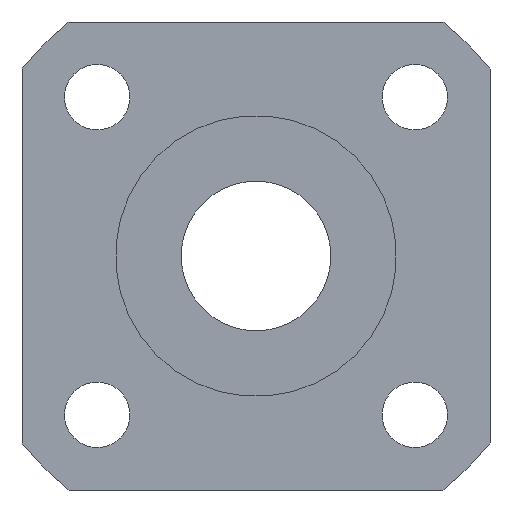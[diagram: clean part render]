
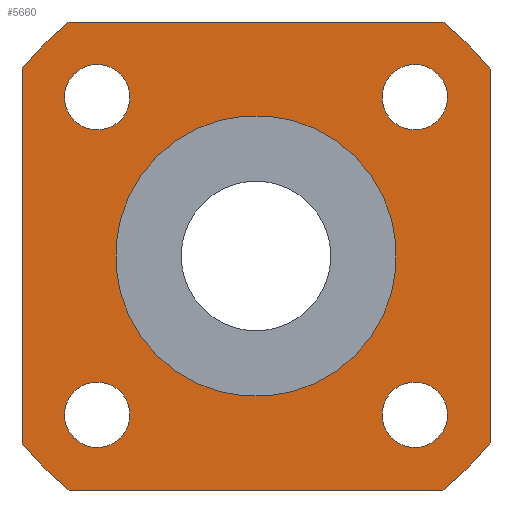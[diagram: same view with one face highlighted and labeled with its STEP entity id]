
A CAD part, left-side view. The second image highlights one B-rep face of the part: STEP entity #5660.
In plain terms, the highlighted planar face has unit normal (-1, 0, 0).
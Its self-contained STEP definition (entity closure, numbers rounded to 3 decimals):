
#110=CIRCLE('',#6006,16.);
#111=CIRCLE('',#6008,16.);
#112=CIRCLE('',#6010,16.);
#122=CIRCLE('',#6025,7.5);
#124=CIRCLE('',#6030,16.);
#125=CIRCLE('',#6031,1.75);
#126=CIRCLE('',#6032,1.75);
#127=CIRCLE('',#6033,1.75);
#128=CIRCLE('',#6034,1.75);
#330=LINE('',#8948,#990);
#331=LINE('',#8949,#991);
#332=LINE('',#8950,#992);
#333=LINE('',#8954,#993);
#990=VECTOR('',#6568,1000.);
#991=VECTOR('',#6569,1000.);
#992=VECTOR('',#6570,1000.);
#993=VECTOR('',#6573,1000.);
#1732=ORIENTED_EDGE('',*,*,#3362,.T.);
#1733=ORIENTED_EDGE('',*,*,#3345,.F.);
#1734=ORIENTED_EDGE('',*,*,#3363,.T.);
#1735=ORIENTED_EDGE('',*,*,#3348,.F.);
#1736=ORIENTED_EDGE('',*,*,#3364,.T.);
#1737=ORIENTED_EDGE('',*,*,#3365,.F.);
#1738=ORIENTED_EDGE('',*,*,#3366,.T.);
#1739=ORIENTED_EDGE('',*,*,#3343,.F.);
#1740=ORIENTED_EDGE('',*,*,#3367,.T.);
#1741=ORIENTED_EDGE('',*,*,#3368,.T.);
#1742=ORIENTED_EDGE('',*,*,#3369,.T.);
#1743=ORIENTED_EDGE('',*,*,#3370,.T.);
#1744=ORIENTED_EDGE('',*,*,#3360,.T.);
#3343=EDGE_CURVE('',#4160,#4161,#110,.T.);
#3345=EDGE_CURVE('',#4162,#4163,#111,.T.);
#3348=EDGE_CURVE('',#4164,#4165,#112,.T.);
#3360=EDGE_CURVE('',#4175,#4175,#122,.T.);
#3362=EDGE_CURVE('',#4160,#4163,#330,.T.);
#3363=EDGE_CURVE('',#4162,#4165,#331,.T.);
#3364=EDGE_CURVE('',#4164,#4177,#332,.T.);
#3365=EDGE_CURVE('',#4178,#4177,#124,.T.);
#3366=EDGE_CURVE('',#4178,#4161,#333,.T.);
#3367=EDGE_CURVE('',#4179,#4179,#125,.T.);
#3368=EDGE_CURVE('',#4180,#4180,#126,.T.);
#3369=EDGE_CURVE('',#4181,#4181,#127,.T.);
#3370=EDGE_CURVE('',#4182,#4182,#128,.T.);
#4160=VERTEX_POINT('',#8902);
#4161=VERTEX_POINT('',#8904);
#4162=VERTEX_POINT('',#8908);
#4163=VERTEX_POINT('',#8909);
#4164=VERTEX_POINT('',#8914);
#4165=VERTEX_POINT('',#8915);
#4175=VERTEX_POINT('',#8942);
#4177=VERTEX_POINT('',#8951);
#4178=VERTEX_POINT('',#8953);
#4179=VERTEX_POINT('',#8956);
#4180=VERTEX_POINT('',#8958);
#4181=VERTEX_POINT('',#8960);
#4182=VERTEX_POINT('',#8962);
#4645=EDGE_LOOP('',(#1732,#1733,#1734,#1735,#1736,#1737,#1738,#1739));
#4646=EDGE_LOOP('',(#1740));
#4647=EDGE_LOOP('',(#1741));
#4648=EDGE_LOOP('',(#1742));
#4649=EDGE_LOOP('',(#1743));
#4650=EDGE_LOOP('',(#1744));
#5051=FACE_BOUND('',#4645,.T.);
#5052=FACE_BOUND('',#4646,.T.);
#5053=FACE_BOUND('',#4647,.T.);
#5054=FACE_BOUND('',#4648,.T.);
#5055=FACE_BOUND('',#4649,.T.);
#5056=FACE_BOUND('',#4650,.T.);
#5403=PLANE('',#6029);
#5660=ADVANCED_FACE('',(#5051,#5052,#5053,#5054,#5055,#5056),#5403,.F.);
#6006=AXIS2_PLACEMENT_3D('',#8903,#6515,#6516);
#6008=AXIS2_PLACEMENT_3D('',#8907,#6520,#6521);
#6010=AXIS2_PLACEMENT_3D('',#8913,#6526,#6527);
#6025=AXIS2_PLACEMENT_3D('',#8941,#6558,#6559);
#6029=AXIS2_PLACEMENT_3D('',#8947,#6566,#6567);
#6030=AXIS2_PLACEMENT_3D('',#8952,#6571,#6572);
#6031=AXIS2_PLACEMENT_3D('',#8955,#6574,#6575);
#6032=AXIS2_PLACEMENT_3D('',#8957,#6576,#6577);
#6033=AXIS2_PLACEMENT_3D('',#8959,#6578,#6579);
#6034=AXIS2_PLACEMENT_3D('',#8961,#6580,#6581);
#6515=DIRECTION('',(1.,0.,0.));
#6516=DIRECTION('',(0.,0.707,-0.707));
#6520=DIRECTION('',(1.,0.,0.));
#6521=DIRECTION('',(0.,0.707,-0.707));
#6526=DIRECTION('',(1.,0.,0.));
#6527=DIRECTION('',(0.,0.707,-0.707));
#6558=DIRECTION('',(1.,0.,0.));
#6559=DIRECTION('',(0.,0.707,-0.707));
#6566=DIRECTION('',(1.,0.,0.));
#6567=DIRECTION('',(0.,0.707,-0.707));
#6568=DIRECTION('',(0.,0.,1.));
#6569=DIRECTION('',(0.,1.,0.));
#6570=DIRECTION('',(0.,0.,-1.));
#6571=DIRECTION('',(1.,0.,0.));
#6572=DIRECTION('',(0.,0.707,-0.707));
#6573=DIRECTION('',(0.,-1.,0.));
#6574=DIRECTION('',(1.,0.,0.));
#6575=DIRECTION('',(0.,0.707,-0.707));
#6576=DIRECTION('',(1.,0.,0.));
#6577=DIRECTION('',(0.,0.707,-0.707));
#6578=DIRECTION('',(1.,0.,0.));
#6579=DIRECTION('',(0.,0.707,-0.707));
#6580=DIRECTION('',(1.,0.,0.));
#6581=DIRECTION('',(0.,0.707,-0.707));
#8902=CARTESIAN_POINT('',(17.5,-12.5,-9.987));
#8903=CARTESIAN_POINT('',(17.5,0.,0.));
#8904=CARTESIAN_POINT('',(17.5,-9.987,-12.5));
#8907=CARTESIAN_POINT('',(17.5,0.,0.));
#8908=CARTESIAN_POINT('',(17.5,-9.987,12.5));
#8909=CARTESIAN_POINT('',(17.5,-12.5,9.987));
#8913=CARTESIAN_POINT('',(17.5,0.,0.));
#8914=CARTESIAN_POINT('',(17.5,12.5,9.987));
#8915=CARTESIAN_POINT('',(17.5,9.987,12.5));
#8941=CARTESIAN_POINT('',(17.5,0.,0.));
#8942=CARTESIAN_POINT('',(17.5,5.303,-5.303));
#8947=CARTESIAN_POINT('',(17.5,0.,0.));
#8948=CARTESIAN_POINT('',(17.5,-12.5,12.5));
#8949=CARTESIAN_POINT('',(17.5,12.5,12.5));
#8950=CARTESIAN_POINT('',(17.5,12.5,-12.5));
#8951=CARTESIAN_POINT('',(17.5,12.5,-9.987));
#8952=CARTESIAN_POINT('',(17.5,0.,0.));
#8953=CARTESIAN_POINT('',(17.5,9.987,-12.5));
#8954=CARTESIAN_POINT('',(17.5,-12.5,-12.5));
#8955=CARTESIAN_POINT('',(17.5,8.485,-8.485));
#8956=CARTESIAN_POINT('',(17.5,9.723,-9.723));
#8957=CARTESIAN_POINT('',(17.5,-8.485,-8.485));
#8958=CARTESIAN_POINT('',(17.5,-7.248,-9.723));
#8959=CARTESIAN_POINT('',(17.5,-8.485,8.485));
#8960=CARTESIAN_POINT('',(17.5,-7.248,7.248));
#8961=CARTESIAN_POINT('',(17.5,8.485,8.485));
#8962=CARTESIAN_POINT('',(17.5,9.723,7.248));
